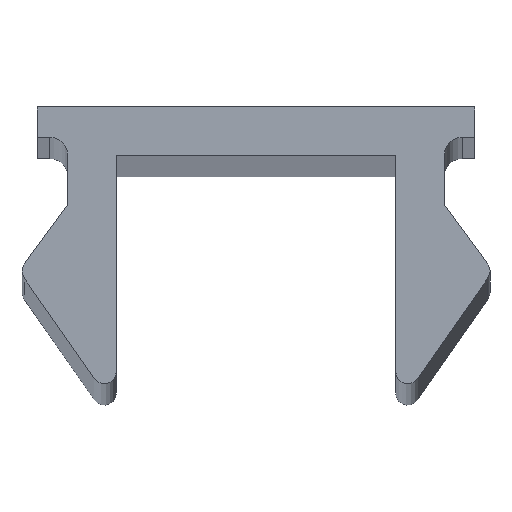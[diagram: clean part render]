
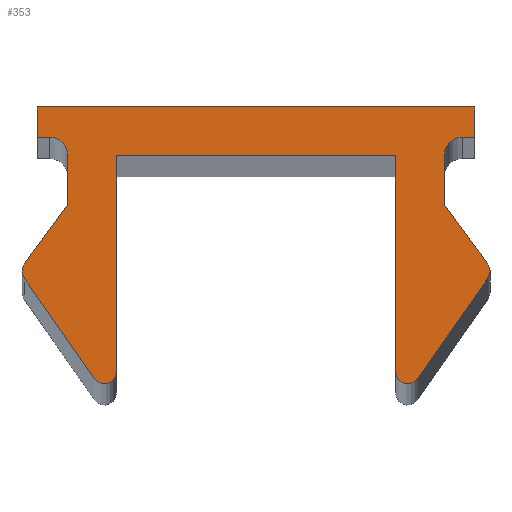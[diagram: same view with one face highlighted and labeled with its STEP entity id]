
A CAD part, top view. The second image highlights one B-rep face of the part: STEP entity #353.
In plain terms, the highlighted planar face has unit normal (0, 0, 1).
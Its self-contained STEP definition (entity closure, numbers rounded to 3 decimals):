
#49=CARTESIAN_POINT('',(-21.205,12.492,200.0));
#50=VERTEX_POINT('',#49);
#51=CARTESIAN_POINT('',(-21.505,12.192,200.0));
#52=VERTEX_POINT('',#51);
#53=CARTESIAN_POINT('',(-21.205,12.192,200.0));
#54=DIRECTION('',(0.0,0.0,1.));
#55=DIRECTION('',(-0.707,0.707,0.0));
#56=AXIS2_PLACEMENT_3D('',#53,#54,#55);
#57=CIRCLE('',#56,0.3);
#58=EDGE_CURVE('',#50,#52,#57,.T.);
#92=CARTESIAN_POINT('',(-21.505,11.392,200.0));
#93=VERTEX_POINT('',#92);
#94=CARTESIAN_POINT('',(-21.505,12.192,200.0));
#95=DIRECTION('',(0.0,-1.0,0.0));
#96=VECTOR('',#95,0.8);
#97=LINE('',#94,#96);
#98=EDGE_CURVE('',#52,#93,#97,.T.);
#122=CARTESIAN_POINT('',(-27.705,12.192,200.0));
#123=VERTEX_POINT('',#122);
#124=CARTESIAN_POINT('',(-28.005,12.492,200.0));
#125=VERTEX_POINT('',#124);
#126=CARTESIAN_POINT('',(-28.005,12.192,200.0));
#127=DIRECTION('',(0.0,0.0,1.));
#128=DIRECTION('',(0.707,0.707,0.0));
#129=AXIS2_PLACEMENT_3D('',#126,#127,#128);
#130=CIRCLE('',#129,0.3);
#131=EDGE_CURVE('',#123,#125,#130,.T.);
#165=CARTESIAN_POINT('',(-28.205,12.492,200.0));
#166=VERTEX_POINT('',#165);
#167=CARTESIAN_POINT('',(-28.205,12.492,200.0));
#168=DIRECTION('',(1.0,0.0,0.0));
#169=VECTOR('',#168,0.2);
#170=LINE('',#167,#169);
#171=EDGE_CURVE('',#166,#125,#170,.T.);
#204=CARTESIAN_POINT('',(-21.005,12.492,200.0));
#205=VERTEX_POINT('',#204);
#212=CARTESIAN_POINT('',(-21.205,12.492,200.0));
#213=DIRECTION('',(1.0,0.0,0.0));
#214=VECTOR('',#213,0.2);
#215=LINE('',#212,#214);
#216=EDGE_CURVE('',#50,#205,#215,.T.);
#221=CARTESIAN_POINT('',(-27.39,10.232,200.0));
#222=DIRECTION('',(0.0,0.0,1.0));
#223=DIRECTION('',(1.0,0.0,0.0));
#224=AXIS2_PLACEMENT_3D('',#221,#222,#223);
#225=PLANE('',#224);
#226=ORIENTED_EDGE('',*,*,#171,.T.);
#227=ORIENTED_EDGE('',*,*,#131,.F.);
#228=CARTESIAN_POINT('',(-27.705,11.392,200.0));
#229=VERTEX_POINT('',#228);
#230=CARTESIAN_POINT('',(-27.705,12.192,200.0));
#231=DIRECTION('',(0.0,-1.0,0.0));
#232=VECTOR('',#231,0.8);
#233=LINE('',#230,#232);
#234=EDGE_CURVE('',#123,#229,#233,.T.);
#235=ORIENTED_EDGE('',*,*,#234,.T.);
#236=CARTESIAN_POINT('',(-28.421,10.407,200.0));
#237=VERTEX_POINT('',#236);
#238=CARTESIAN_POINT('',(-28.421,10.407,200.0));
#239=DIRECTION('',(0.588,0.809,0.0));
#240=VECTOR('',#239,1.218);
#241=LINE('',#238,#240);
#242=EDGE_CURVE('',#237,#229,#241,.T.);
#243=ORIENTED_EDGE('',*,*,#242,.F.);
#244=CARTESIAN_POINT('',(-28.423,10.175,200.0));
#245=VERTEX_POINT('',#244);
#246=CARTESIAN_POINT('',(-28.259,10.289,200.0));
#247=DIRECTION('',(0.0,0.0,-1.));
#248=DIRECTION('',(-1.,0.01,0.0));
#249=AXIS2_PLACEMENT_3D('',#246,#247,#248);
#250=CIRCLE('',#249,0.2);
#251=EDGE_CURVE('',#245,#237,#250,.T.);
#252=ORIENTED_EDGE('',*,*,#251,.F.);
#253=CARTESIAN_POINT('',(-27.269,8.515,200.0));
#254=VERTEX_POINT('',#253);
#255=CARTESIAN_POINT('',(-27.269,8.515,200.0));
#256=DIRECTION('',(-0.571,0.821,0.0));
#257=VECTOR('',#256,2.022);
#258=LINE('',#255,#257);
#259=EDGE_CURVE('',#254,#245,#258,.T.);
#260=ORIENTED_EDGE('',*,*,#259,.F.);
#261=CARTESIAN_POINT('',(-26.905,8.63,200.0));
#262=VERTEX_POINT('',#261);
#263=CARTESIAN_POINT('',(-27.105,8.63,200.0));
#264=DIRECTION('',(0.0,0.0,-1.));
#265=DIRECTION('',(0.299,-0.954,0.0));
#266=AXIS2_PLACEMENT_3D('',#263,#264,#265);
#267=CIRCLE('',#266,0.2);
#268=EDGE_CURVE('',#262,#254,#267,.T.);
#269=ORIENTED_EDGE('',*,*,#268,.F.);
#270=CARTESIAN_POINT('',(-26.905,12.192,200.0));
#271=VERTEX_POINT('',#270);
#272=CARTESIAN_POINT('',(-26.905,12.192,200.0));
#273=DIRECTION('',(0.0,-1.0,0.0));
#274=VECTOR('',#273,3.562);
#275=LINE('',#272,#274);
#276=EDGE_CURVE('',#271,#262,#275,.T.);
#277=ORIENTED_EDGE('',*,*,#276,.F.);
#278=CARTESIAN_POINT('',(-22.305,12.192,200.0));
#279=VERTEX_POINT('',#278);
#280=CARTESIAN_POINT('',(-22.305,12.192,200.0));
#281=DIRECTION('',(-1.0,0.0,0.0));
#282=VECTOR('',#281,4.6);
#283=LINE('',#280,#282);
#284=EDGE_CURVE('',#279,#271,#283,.T.);
#285=ORIENTED_EDGE('',*,*,#284,.F.);
#286=CARTESIAN_POINT('',(-22.305,8.63,200.0));
#287=VERTEX_POINT('',#286);
#288=CARTESIAN_POINT('',(-22.305,8.63,200.0));
#289=DIRECTION('',(0.0,1.0,0.0));
#290=VECTOR('',#289,3.562);
#291=LINE('',#288,#290);
#292=EDGE_CURVE('',#287,#279,#291,.T.);
#293=ORIENTED_EDGE('',*,*,#292,.F.);
#294=CARTESIAN_POINT('',(-21.94,8.515,200.0));
#295=VERTEX_POINT('',#294);
#296=CARTESIAN_POINT('',(-22.105,8.63,200.0));
#297=DIRECTION('',(0.0,0.0,-1.));
#298=DIRECTION('',(-0.299,-0.954,0.0));
#299=AXIS2_PLACEMENT_3D('',#296,#297,#298);
#300=CIRCLE('',#299,0.2);
#301=EDGE_CURVE('',#295,#287,#300,.T.);
#302=ORIENTED_EDGE('',*,*,#301,.F.);
#303=CARTESIAN_POINT('',(-20.786,10.175,200.0));
#304=VERTEX_POINT('',#303);
#305=CARTESIAN_POINT('',(-20.786,10.175,200.0));
#306=DIRECTION('',(-0.571,-0.821,0.0));
#307=VECTOR('',#306,2.022);
#308=LINE('',#305,#307);
#309=EDGE_CURVE('',#304,#295,#308,.T.);
#310=ORIENTED_EDGE('',*,*,#309,.F.);
#311=CARTESIAN_POINT('',(-20.788,10.407,200.0));
#312=VERTEX_POINT('',#311);
#313=CARTESIAN_POINT('',(-20.95,10.289,200.0));
#314=DIRECTION('',(0.0,0.0,-1.));
#315=DIRECTION('',(1.,0.01,0.0));
#316=AXIS2_PLACEMENT_3D('',#313,#314,#315);
#317=CIRCLE('',#316,0.2);
#318=EDGE_CURVE('',#312,#304,#317,.T.);
#319=ORIENTED_EDGE('',*,*,#318,.F.);
#320=CARTESIAN_POINT('',(-21.505,11.392,200.0));
#321=DIRECTION('',(0.588,-0.809,0.0));
#322=VECTOR('',#321,1.218);
#323=LINE('',#320,#322);
#324=EDGE_CURVE('',#93,#312,#323,.T.);
#325=ORIENTED_EDGE('',*,*,#324,.F.);
#326=ORIENTED_EDGE('',*,*,#98,.F.);
#327=ORIENTED_EDGE('',*,*,#58,.F.);
#328=ORIENTED_EDGE('',*,*,#216,.T.);
#329=CARTESIAN_POINT('',(-21.005,12.992,200.0));
#330=VERTEX_POINT('',#329);
#331=CARTESIAN_POINT('',(-21.005,12.992,200.0));
#332=DIRECTION('',(0.0,-1.0,0.0));
#333=VECTOR('',#332,0.5);
#334=LINE('',#331,#333);
#335=EDGE_CURVE('',#330,#205,#334,.T.);
#336=ORIENTED_EDGE('',*,*,#335,.F.);
#337=CARTESIAN_POINT('',(-28.205,12.992,200.0));
#338=VERTEX_POINT('',#337);
#339=CARTESIAN_POINT('',(-28.205,12.992,200.0));
#340=DIRECTION('',(1.0,0.0,0.0));
#341=VECTOR('',#340,7.2);
#342=LINE('',#339,#341);
#343=EDGE_CURVE('',#338,#330,#342,.T.);
#344=ORIENTED_EDGE('',*,*,#343,.F.);
#345=CARTESIAN_POINT('',(-28.205,12.492,200.0));
#346=DIRECTION('',(0.0,1.0,0.0));
#347=VECTOR('',#346,0.5);
#348=LINE('',#345,#347);
#349=EDGE_CURVE('',#166,#338,#348,.T.);
#350=ORIENTED_EDGE('',*,*,#349,.F.);
#351=EDGE_LOOP('',(#226,#227,#235,#243,#252,#260,#269,#277,#285,#293,#302,#310,#319,#325,#326,#327,#328,#336,#344,#350));
#352=FACE_OUTER_BOUND('',#351,.T.);
#353=ADVANCED_FACE('',(#352),#225,.T.);
